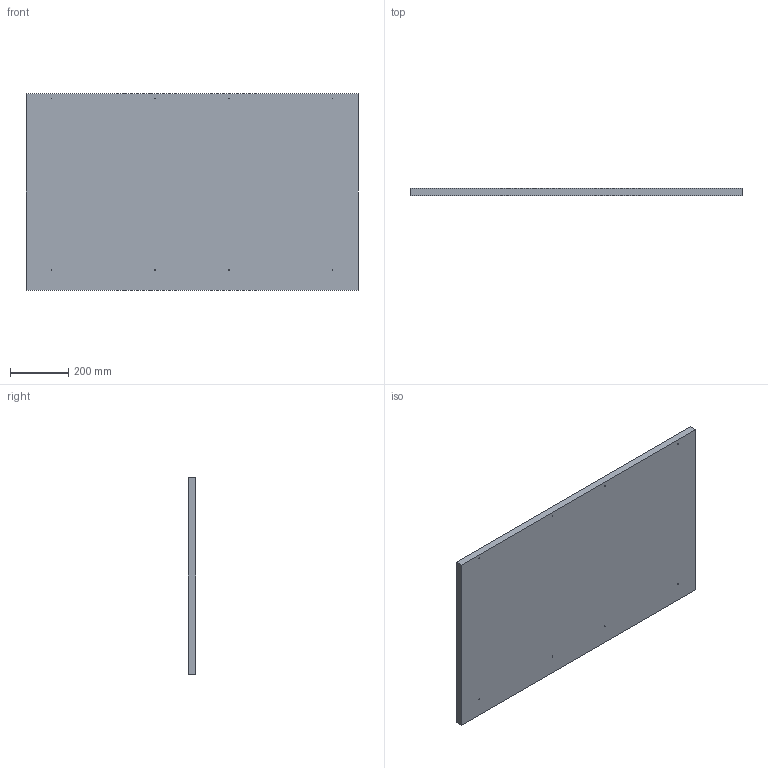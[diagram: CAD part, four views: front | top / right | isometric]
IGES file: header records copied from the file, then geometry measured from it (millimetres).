
Start section:  PTC IGES file: c5_2bay_27d_top.igs
Global section: file name: c5_2bay_27d_top.igs; native system: Creo Elements/Pro by Parametric Technology Corporation; preprocessor: 2013330; author: RRenderos; organization: Unknown; date: 20141223.112716; units: inch
Bounding box: 1140.76 x 25.4 x 674.12 mm (x, y, z)
Surface area: 1630804.7 mm2 (no closed solid volume)
Topology: 0 solids, 0 shells, 30 faces, 120 edges, 120 vertices
Faces by surface type: bspline 30
